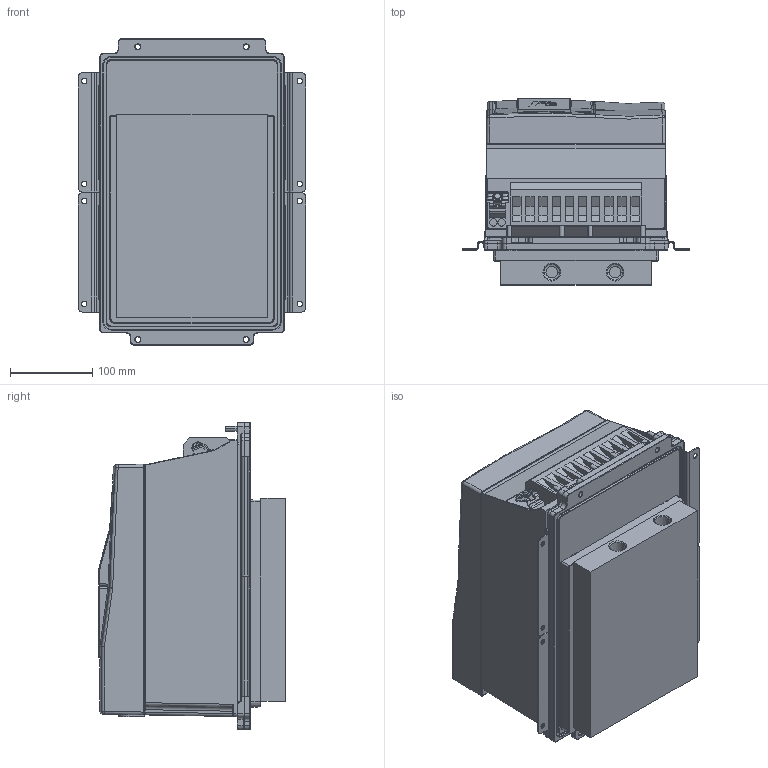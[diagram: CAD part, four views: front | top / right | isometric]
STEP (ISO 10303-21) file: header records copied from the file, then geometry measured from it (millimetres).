
FILE_DESCRIPTION (( 'STEP AP214' ), '1' );
FILE_NAME ('F6-4TK5-P150.STEP', '2020-12-10T12:50:10', ( '' ), ( '' ), 'SwSTEP 2.0', 'SolidWorks 2019', '' );
FILE_SCHEMA (( 'AUTOMOTIVE_DESIGN' ));
Length unit declared in the file: millimetre
Products named in the file (11): 10060692_000_Leistungsteil TK5 (Kundenmodell); 10058448_000; 10060814_000; F6-4TK5-P150; 10061645_000; 10051076_000_Kundenmodell; 10059764_000_Blindabdeckung (Kundenmodell); 10061644_000_Deckel (Kundenmodell); 10059762_000_Kundenmodell mit Geberbuchsen; 10032600_000_Kundenmodell; 10059765_000
Assembly tree (10 placements, depth 4):
  F6-4TK5-P150
    10060692_000_Leistungsteil TK5 (Kundenmodell)
      10060814_000
    10032600_000_Kundenmodell
      10061644_000_Deckel (Kundenmodell)
        10061645_000
      10058448_000
    10051076_000_Kundenmodell
      10059764_000_Blindabdeckung (Kundenmodell)
        10059765_000
      10059762_000_Kundenmodell mit Geberbuchsen
Bounding box: 277 x 226.7 x 373 mm (x, y, z)
Volume: 14432068.8 mm3; surface area: 855922.7 mm2
Topology: 11 solids, 26 shells, 2540 faces, 6547 edges, 4081 vertices
Faces by surface type: plane 1064, cylinder 629, bspline 535, torus 159, cone 113, sphere 40
Entity records: 103667 total; most frequent: CARTESIAN_POINT 39715, ORIENTED_EDGE 12976, DIRECTION 10797, EDGE_CURVE 6488, VERTEX_POINT 4079, LINE 3629, VECTOR 3629, AXIS2_PLACEMENT_3D 3584
